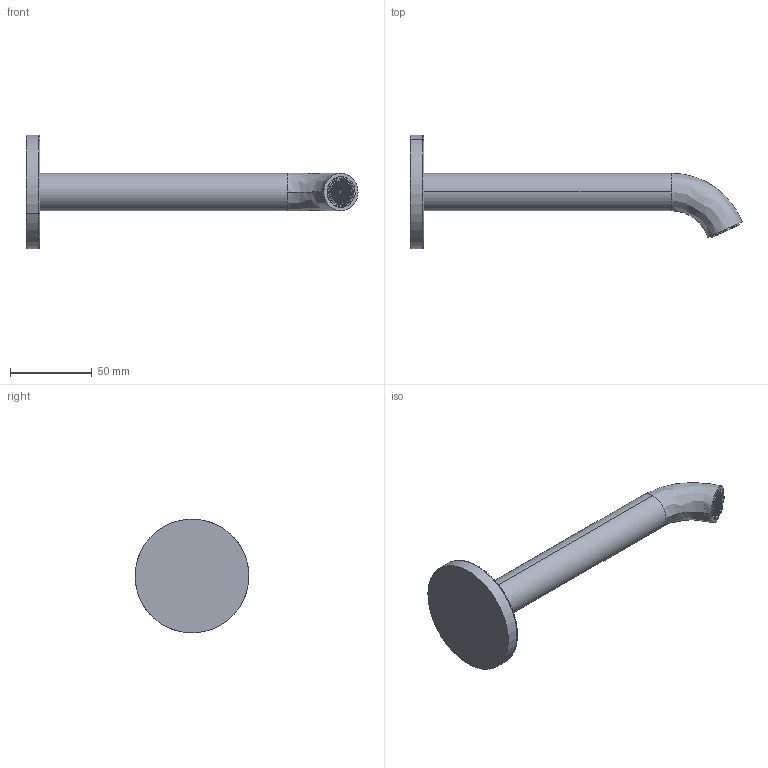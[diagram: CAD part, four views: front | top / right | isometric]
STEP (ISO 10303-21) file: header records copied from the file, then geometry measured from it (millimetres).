
FILE_DESCRIPTION (( 'STEP AP214' ), '1' );
FILE_NAME ('9921Q510 x architetti.STEP', '2024-09-13T08:02:23', ( '' ), ( '' ), 'SwSTEP 2.0', 'SolidWorks 2020', '' );
FILE_SCHEMA (( 'AUTOMOTIVE_DESIGN' ));
Length unit declared in the file: millimetre
Products named in the file (1): 9921Q510 x architetti
Bounding box: 203.46 x 69.74 x 69.74 mm (x, y, z)
Volume: 101452 mm3; surface area: 30581.3 mm2
Topology: 3 solids, 3 shells, 3908 faces, 11295 edges, 7313 vertices
Faces by surface type: plane 3341, cylinder 421, bspline 134, cone 12
Entity records: 188300 total; most frequent: CARTESIAN_POINT 53375, ORIENTED_EDGE 22590, DIRECTION 13604, EDGE_CURVE 11295, VERTEX_POINT 7313, VECTOR 5208, LINE 5208, B_SPLINE_CURVE_WITH_KNOTS 5034
